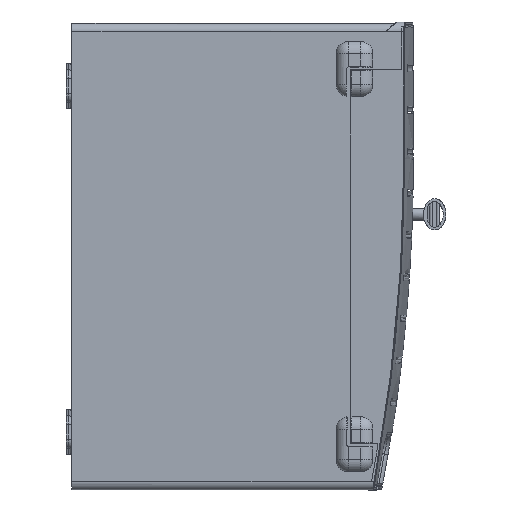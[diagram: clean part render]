
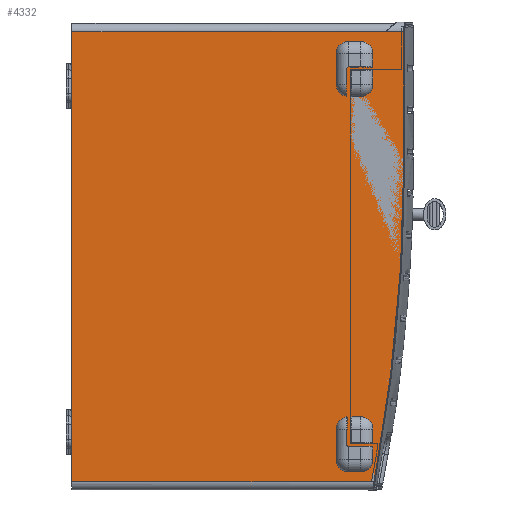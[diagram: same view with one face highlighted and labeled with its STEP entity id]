
A CAD part, left-side view. The second image highlights one B-rep face of the part: STEP entity #4332.
In plain terms, the highlighted planar face has unit normal (-1, 0, 0).
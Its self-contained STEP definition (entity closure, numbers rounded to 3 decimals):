
#3490=PLANE('',#21362);
#4332=ADVANCED_FACE('',(#5310),#3490,.T.);
#5310=FACE_OUTER_BOUND('',#5999,.T.);
#5999=EDGE_LOOP('',(#10486,#10487,#10488,#10489,#10490,#10491));
#7605=LINE('',#28672,#9005);
#7606=LINE('',#28676,#9006);
#7607=LINE('',#28680,#9007);
#7608=LINE('',#28682,#9008);
#7609=LINE('',#28684,#9009);
#9005=VECTOR('',#23325,1.);
#9006=VECTOR('',#23330,1.);
#9007=VECTOR('',#23333,1.);
#9008=VECTOR('',#23334,1.);
#9009=VECTOR('',#23335,1.);
#10486=ORIENTED_EDGE('',*,*,#17397,.T.);
#10487=ORIENTED_EDGE('',*,*,#17395,.T.);
#10488=ORIENTED_EDGE('',*,*,#17398,.F.);
#10489=ORIENTED_EDGE('',*,*,#17399,.T.);
#10490=ORIENTED_EDGE('',*,*,#17400,.T.);
#10491=ORIENTED_EDGE('',*,*,#17401,.F.);
#14665=VERTEX_POINT('',#28671);
#14666=VERTEX_POINT('',#28673);
#14667=VERTEX_POINT('',#28677);
#14668=VERTEX_POINT('',#28679);
#14669=VERTEX_POINT('',#28681);
#14670=VERTEX_POINT('',#28683);
#17395=EDGE_CURVE('',#14666,#14665,#7605,.T.);
#17397=EDGE_CURVE('',#14667,#14666,#7606,.T.);
#17398=EDGE_CURVE('',#14668,#14665,#20548,.T.);
#17399=EDGE_CURVE('',#14668,#14669,#7607,.T.);
#17400=EDGE_CURVE('',#14669,#14670,#7608,.T.);
#17401=EDGE_CURVE('',#14667,#14670,#7609,.T.);
#20548=CIRCLE('',#21361,1964.312);
#21361=AXIS2_PLACEMENT_3D('',#28678,#23331,#23332);
#21362=AXIS2_PLACEMENT_3D('',#28685,#23336,#23337);
#23325=DIRECTION('',(0.,-1.,0.));
#23330=DIRECTION('',(0.,0.,-1.));
#23331=DIRECTION('',(1.,0.,0.));
#23332=DIRECTION('',(0.,0.,-1.));
#23333=DIRECTION('',(0.,0.,1.));
#23334=DIRECTION('',(0.,1.,0.));
#23335=DIRECTION('',(0.,-1.,0.));
#23336=DIRECTION('',(-1.,0.,0.));
#23337=DIRECTION('',(0.,0.,1.));
#28671=CARTESIAN_POINT('',(-232.5,73.852,9.5));
#28672=CARTESIAN_POINT('',(-232.5,411.8,9.5));
#28673=CARTESIAN_POINT('',(-232.5,411.8,9.5));
#28676=CARTESIAN_POINT('',(-232.5,411.8,512.5));
#28677=CARTESIAN_POINT('',(-232.5,411.8,512.5));
#28678=CARTESIAN_POINT('',(-232.5,2004.8,370.));
#28679=CARTESIAN_POINT('',(-232.5,40.488,370.));
#28680=CARTESIAN_POINT('',(-232.5,40.488,575.854));
#28681=CARTESIAN_POINT('',(-232.5,40.488,512.5));
#28682=CARTESIAN_POINT('',(-232.5,40.488,512.5));
#28683=CARTESIAN_POINT('',(-232.5,60.841,512.5));
#28684=CARTESIAN_POINT('',(-232.5,411.8,512.5));
#28685=CARTESIAN_POINT('',(-232.5,450.004,575.854));
